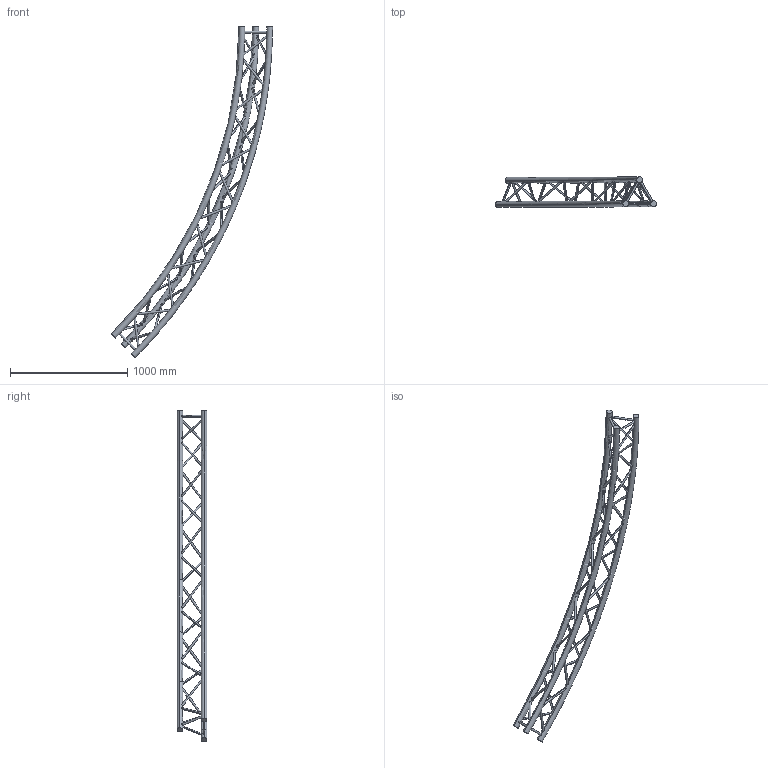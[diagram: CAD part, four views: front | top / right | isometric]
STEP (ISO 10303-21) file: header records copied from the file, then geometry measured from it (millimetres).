
FILE_DESCRIPTION (( 'STEP AP203' ), '1' );
FILE_NAME ('SXC29800PH.STEP', '2009-10-21T08:19:54', ( 'CEDIA' ), ( 'CEDIA INDUSTRIE' ), 'SwSTEP 2.0', 'SolidWorks 2009', '' );
FILE_SCHEMA (( 'CONFIG_CONTROL_DESIGN' ));
Length unit declared in the file: millimetre
Products named in the file (1): SXC29800PH
Bounding box: 1374.51 x 255.25 x 2828.43 mm (x, y, z)
Volume: 20004085.4 mm3; surface area: 1958313.8 mm2
Topology: 1 solids, 1 shells, 96 faces, 298 edges, 180 vertices
Faces by surface type: cylinder 84, torus 6, plane 6
Entity records: 10897 total; most frequent: CARTESIAN_POINT 8351, ORIENTED_EDGE 596, DIRECTION 370, EDGE_CURVE 298, VERTEX_POINT 180, B_SPLINE_CURVE_WITH_KNOTS 168, EDGE_LOOP 152, AXIS2_PLACEMENT_3D 143
